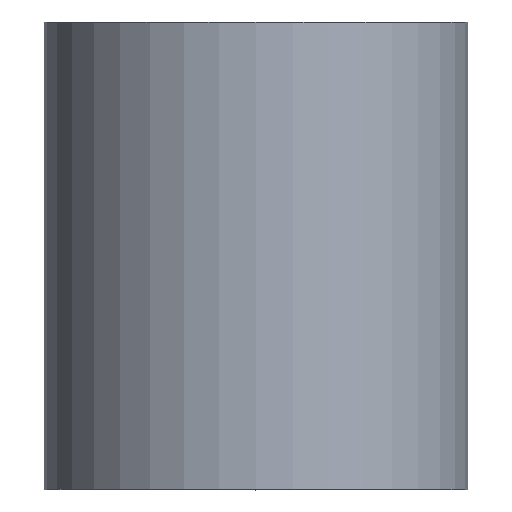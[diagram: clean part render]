
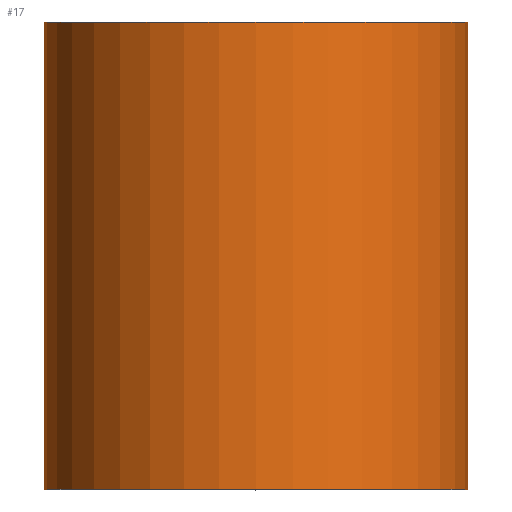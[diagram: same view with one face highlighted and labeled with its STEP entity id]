
A CAD part, top view. The second image highlights one B-rep face of the part: STEP entity #17.
In plain terms, the highlighted cylindrical face has radius 3.175 mm (diameter 6.35 mm), a full revolution.
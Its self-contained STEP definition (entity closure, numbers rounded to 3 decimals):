
#17 = ADVANCED_FACE('',(#18),#32,.T.);
#18 = FACE_BOUND('',#19,.F.);
#19 = EDGE_LOOP('',(#20,#50,#77,#78));
#20 = ORIENTED_EDGE('',*,*,#21,.T.);
#21 = EDGE_CURVE('',#22,#24,#26,.T.);
#22 = VERTEX_POINT('',#23);
#23 = CARTESIAN_POINT('',(41.175,-64.,43.));
#24 = VERTEX_POINT('',#25);
#25 = CARTESIAN_POINT('',(41.175,-71.,43.));
#26 = SEAM_CURVE('',#27,(#31,#43),.PCURVE_S1.);
#27 = LINE('',#28,#29);
#28 = CARTESIAN_POINT('',(41.175,-64.,43.));
#29 = VECTOR('',#30,1.);
#30 = DIRECTION('',(0.,-1.,0.));
#31 = PCURVE('',#32,#37);
#32 = CYLINDRICAL_SURFACE('',#33,3.175);
#33 = AXIS2_PLACEMENT_3D('',#34,#35,#36);
#34 = CARTESIAN_POINT('',(38.,-64.,43.));
#35 = DIRECTION('',(-0.,1.,0.));
#36 = DIRECTION('',(1.,0.,0.));
#37 = DEFINITIONAL_REPRESENTATION('',(#38),#42);
#38 = LINE('',#39,#40);
#39 = CARTESIAN_POINT('',(-0.,0.));
#40 = VECTOR('',#41,1.);
#41 = DIRECTION('',(-0.,-1.));
#42 = ( GEOMETRIC_REPRESENTATION_CONTEXT(2) 
PARAMETRIC_REPRESENTATION_CONTEXT() REPRESENTATION_CONTEXT('2D SPACE',''
  ) );
#43 = PCURVE('',#32,#44);
#44 = DEFINITIONAL_REPRESENTATION('',(#45),#49);
#45 = LINE('',#46,#47);
#46 = CARTESIAN_POINT('',(-6.283,0.));
#47 = VECTOR('',#48,1.);
#48 = DIRECTION('',(-0.,-1.));
#49 = ( GEOMETRIC_REPRESENTATION_CONTEXT(2) 
PARAMETRIC_REPRESENTATION_CONTEXT() REPRESENTATION_CONTEXT('2D SPACE',''
  ) );
#50 = ORIENTED_EDGE('',*,*,#51,.T.);
#51 = EDGE_CURVE('',#24,#24,#52,.T.);
#52 = SURFACE_CURVE('',#53,(#58,#65),.PCURVE_S1.);
#53 = CIRCLE('',#54,3.175);
#54 = AXIS2_PLACEMENT_3D('',#55,#56,#57);
#55 = CARTESIAN_POINT('',(38.,-71.,43.));
#56 = DIRECTION('',(0.,-1.,0.));
#57 = DIRECTION('',(1.,0.,0.));
#58 = PCURVE('',#32,#59);
#59 = DEFINITIONAL_REPRESENTATION('',(#60),#64);
#60 = LINE('',#61,#62);
#61 = CARTESIAN_POINT('',(-0.,-7.));
#62 = VECTOR('',#63,1.);
#63 = DIRECTION('',(-1.,0.));
#64 = ( GEOMETRIC_REPRESENTATION_CONTEXT(2) 
PARAMETRIC_REPRESENTATION_CONTEXT() REPRESENTATION_CONTEXT('2D SPACE',''
  ) );
#65 = PCURVE('',#66,#71);
#66 = PLANE('',#67);
#67 = AXIS2_PLACEMENT_3D('',#68,#69,#70);
#68 = CARTESIAN_POINT('',(38.,-71.,43.));
#69 = DIRECTION('',(0.,-1.,0.));
#70 = DIRECTION('',(1.,0.,0.));
#71 = DEFINITIONAL_REPRESENTATION('',(#72),#76);
#72 = CIRCLE('',#73,3.175);
#73 = AXIS2_PLACEMENT_2D('',#74,#75);
#74 = CARTESIAN_POINT('',(0.,0.));
#75 = DIRECTION('',(1.,0.));
#76 = ( GEOMETRIC_REPRESENTATION_CONTEXT(2) 
PARAMETRIC_REPRESENTATION_CONTEXT() REPRESENTATION_CONTEXT('2D SPACE',''
  ) );
#77 = ORIENTED_EDGE('',*,*,#21,.F.);
#78 = ORIENTED_EDGE('',*,*,#79,.F.);
#79 = EDGE_CURVE('',#22,#22,#80,.T.);
#80 = SURFACE_CURVE('',#81,(#86,#93),.PCURVE_S1.);
#81 = CIRCLE('',#82,3.175);
#82 = AXIS2_PLACEMENT_3D('',#83,#84,#85);
#83 = CARTESIAN_POINT('',(38.,-64.,43.));
#84 = DIRECTION('',(0.,-1.,0.));
#85 = DIRECTION('',(1.,0.,0.));
#86 = PCURVE('',#32,#87);
#87 = DEFINITIONAL_REPRESENTATION('',(#88),#92);
#88 = LINE('',#89,#90);
#89 = CARTESIAN_POINT('',(-0.,0.));
#90 = VECTOR('',#91,1.);
#91 = DIRECTION('',(-1.,0.));
#92 = ( GEOMETRIC_REPRESENTATION_CONTEXT(2) 
PARAMETRIC_REPRESENTATION_CONTEXT() REPRESENTATION_CONTEXT('2D SPACE',''
  ) );
#93 = PCURVE('',#94,#99);
#94 = PLANE('',#95);
#95 = AXIS2_PLACEMENT_3D('',#96,#97,#98);
#96 = CARTESIAN_POINT('',(38.,-64.,43.));
#97 = DIRECTION('',(0.,-1.,0.));
#98 = DIRECTION('',(1.,0.,0.));
#99 = DEFINITIONAL_REPRESENTATION('',(#100),#104);
#100 = CIRCLE('',#101,3.175);
#101 = AXIS2_PLACEMENT_2D('',#102,#103);
#102 = CARTESIAN_POINT('',(0.,0.));
#103 = DIRECTION('',(1.,0.));
#104 = ( GEOMETRIC_REPRESENTATION_CONTEXT(2) 
PARAMETRIC_REPRESENTATION_CONTEXT() REPRESENTATION_CONTEXT('2D SPACE',''
  ) );
